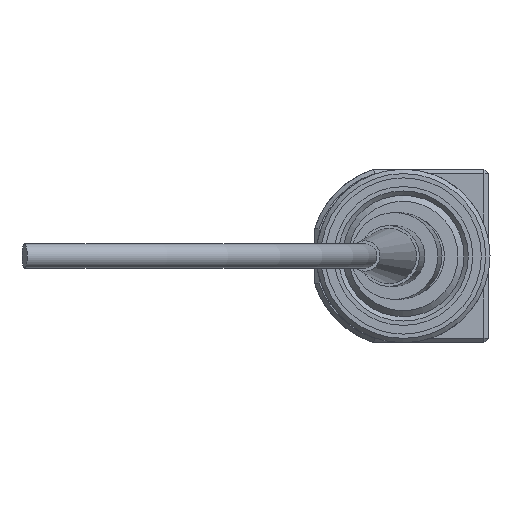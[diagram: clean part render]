
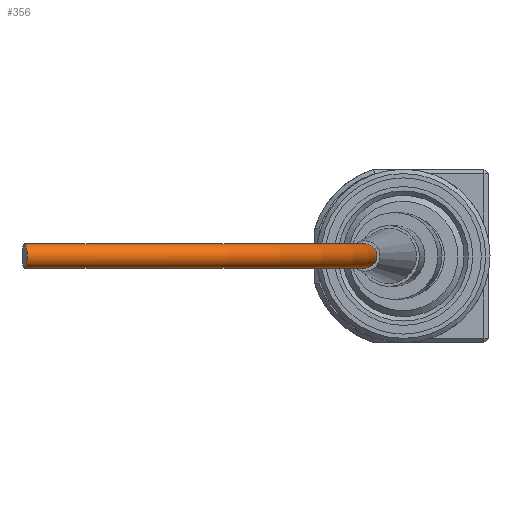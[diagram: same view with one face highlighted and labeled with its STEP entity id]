
A CAD part, left-side view. The second image highlights one B-rep face of the part: STEP entity #356.
In plain terms, the highlighted toroidal (fillet/blend) face has major radius 50 mm and minor radius 1.4 mm.
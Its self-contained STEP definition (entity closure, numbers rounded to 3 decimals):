
#45 = AXIS2_PLACEMENT_3D ( 'NONE', #769, #956, #2270 ) ;
#106 = EDGE_LOOP ( 'NONE', ( #1589 ) ) ;
#138 = CARTESIAN_POINT ( 'NONE',  ( -132.129, 4.43, 1.4 ) ) ;
#251 = DIRECTION ( 'NONE',  ( 0., 0., 1. ) ) ;
#285 = CIRCLE ( 'NONE', #1330, 1.4 ) ;
#356 = ADVANCED_FACE ( 'NONE', ( #1858, #1310 ), #2380, .T. ) ;
#586 = DIRECTION ( 'NONE',  ( -0.214, 0.977, 0. ) ) ;
#614 = EDGE_CURVE ( 'NONE', #1659, #1659, #285, .T. ) ;
#696 = CARTESIAN_POINT ( 'NONE',  ( -132.129, 4.43, 0. ) ) ;
#769 = CARTESIAN_POINT ( 'NONE',  ( -128.728, 54.314, 0. ) ) ;
#956 = DIRECTION ( 'NONE',  ( 0., 0., 1. ) ) ;
#958 = DIRECTION ( 'NONE',  ( 0., 0., 1. ) ) ;
#1152 = ORIENTED_EDGE ( 'NONE', *, *, #614, .F. ) ;
#1163 = CARTESIAN_POINT ( 'NONE',  ( -177.575, 43.638, 0. ) ) ;
#1202 = CARTESIAN_POINT ( 'NONE',  ( -177.575, 43.638, 1.4 ) ) ;
#1310 = FACE_OUTER_BOUND ( 'NONE', #106, .T. ) ;
#1330 = AXIS2_PLACEMENT_3D ( 'NONE', #1163, #586, #958 ) ;
#1427 = CIRCLE ( 'NONE', #1714, 1.4 ) ;
#1589 = ORIENTED_EDGE ( 'NONE', *, *, #2217, .T. ) ;
#1659 = VERTEX_POINT ( 'NONE', #1202 ) ;
#1678 = DIRECTION ( 'NONE',  ( -0.998, 0.068, 0. ) ) ;
#1714 = AXIS2_PLACEMENT_3D ( 'NONE', #696, #1678, #251 ) ;
#1858 = FACE_OUTER_BOUND ( 'NONE', #2335, .T. ) ;
#2068 = VERTEX_POINT ( 'NONE', #138 ) ;
#2217 = EDGE_CURVE ( 'NONE', #2068, #2068, #1427, .T. ) ;
#2270 = DIRECTION ( 'NONE',  ( 0.998, -0.068, 0. ) ) ;
#2335 = EDGE_LOOP ( 'NONE', ( #1152 ) ) ;
#2380 = TOROIDAL_SURFACE ( 'NONE', #45, 50., 1.4 ) ;
